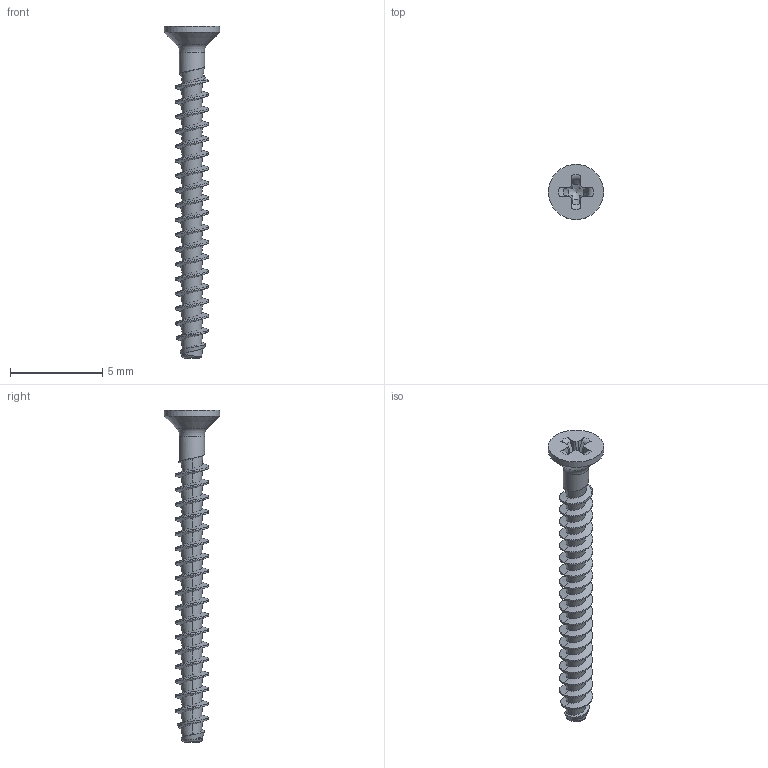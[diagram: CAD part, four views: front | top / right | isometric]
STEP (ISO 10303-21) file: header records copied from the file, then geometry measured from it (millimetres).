
FILE_DESCRIPTION(/* description */ (''),/* implementation_level */ '2;1');
FILE_NAME(/* name */ 'KN1033-STS-18x18-H0.step',/* time_stamp */ '2017-10-16T14:10:45+02:00',/* author */ (''),/* organization */ (''),/* preprocessor_version */ 'ST-DEVELOPER v16',/* originating_system */ 'SIEMENS PLM Software NX 10.0',/* authorisation */ '');
FILE_SCHEMA (('AUTOMOTIVE_DESIGN { 1 0 10303 214 3 1 1 1 }'));
Length unit declared in the file: millimetre
Products named in the file (1): KN1033-STS-18x18-H0
Bounding box: 3 x 3 x 18 mm (x, y, z)
Volume: 26.7 mm3; surface area: 132.9 mm2
Topology: 1 solids, 1 shells, 96 faces, 241 edges, 147 vertices
Faces by surface type: bspline 60, plane 18, cone 8, torus 6, cylinder 4
Full cylindrical faces by diameter (mm): 1.36 x1, 3 x1
Entity records: 6549 total; most frequent: CARTESIAN_POINT 4732, ORIENTED_EDGE 456, EDGE_CURVE 228, DIRECTION 199, VERTEX_POINT 142, B_SPLINE_CURVE_WITH_KNOTS 122, EDGE_LOOP 101, ADVANCED_FACE 95
